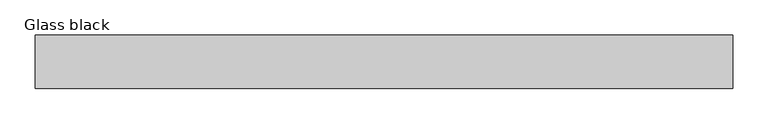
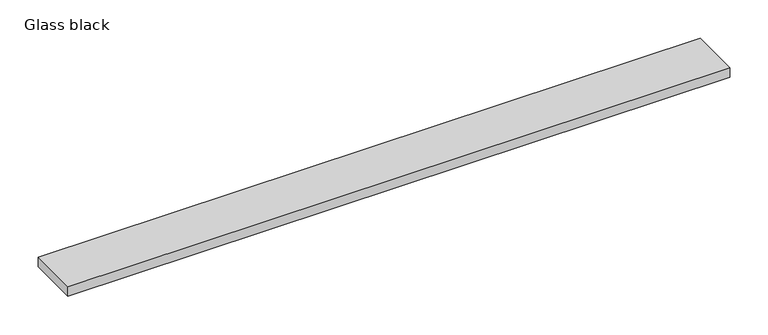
"""IFC4 building model written with IfcOpenShell, lengths in millimetres: sanitary terminal geometry, ZZZ_do not use_PF_UN_grating for ShowerDrain E and M series_ACO : Glass black."""

from ifc_helpers import new_model, si_unit, frame, origin, place, context, project, spatial, polyline, outline, extrude, source, transform, mapped, element, save


def glass_black_2b985351(model_context):
    return source(origin(), model_context, "Body", "SweptSolid", [
        extrude(outline(polyline([(498.0, 38.5), (498.0, -38.5), (-498.0, -38.5), (-498.0, 38.5), (498.0, 38.5)])), frame((0.0, 0.0, -15.0), z_axis=(0.0, 0.0, 1.0), x_axis=(1.0, 0.0, 0.0)), (0.0, 0.0, 1.0), 15.0),
    ])


if __name__ == "__main__":
    model = new_model("IFC4")
    model_context = context("Model", 3, world=origin())
    ifc_project = project(units=[si_unit("LENGTHUNIT", "METRE", prefix="MILLI")], contexts=[model_context])
    site = spatial("IfcSite", under=ifc_project)
    building = spatial("IfcBuilding", under=site)
    placement = place(None, origin())
    glass_black_shape = glass_black_2b985351(model_context)
    element("IfcSanitaryTerminal", 1, ObjectType="ZZZ_do not use_PF_UN_grating for ShowerDrain E and M series_ACO : Glass black", at=placement, inside=building, context=model_context, shape_type="MappedRepresentation", body=[
        mapped(glass_black_shape, transform((0.0, 0.0, 0.0), x_axis=(1.0, 0.0, 0.0), y_axis=(0.0, 1.0, 0.0), z_axis=(0.0, 0.0, 1.0))),
    ])
    save(model, "model.ifc")
